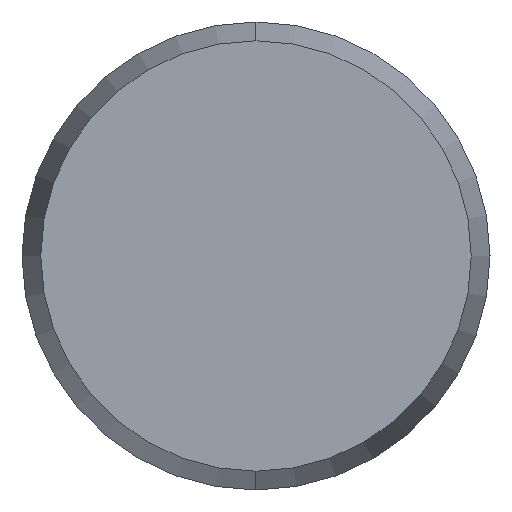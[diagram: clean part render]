
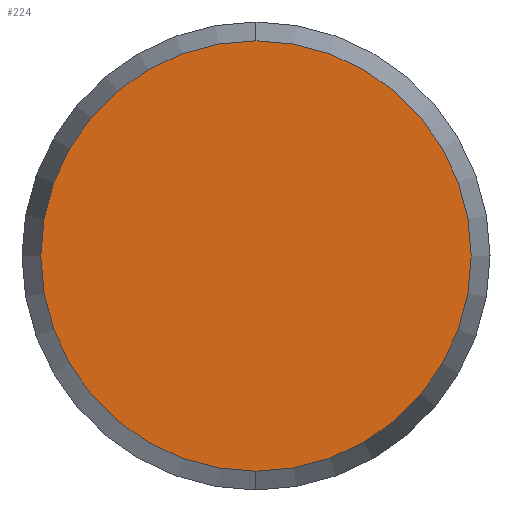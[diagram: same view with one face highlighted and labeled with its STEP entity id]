
A CAD part, left-side view. The second image highlights one B-rep face of the part: STEP entity #224.
In plain terms, the highlighted planar face has unit normal (-1, 0, 0).
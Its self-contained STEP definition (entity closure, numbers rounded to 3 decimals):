
#1 = CARTESIAN_POINT ( 'NONE',  ( -12., 0., 0. ) ) ;
#2 = DIRECTION ( 'NONE',  ( 1., 0., 0. ) ) ;
#3 = AXIS2_PLACEMENT_3D ( 'NONE', #1, #2, #4 ) ;
#4 = DIRECTION ( 'NONE',  ( 0., 0., -1. ) ) ;
#22 = AXIS2_PLACEMENT_3D ( 'NONE', #28, #27, #36 ) ;
#23 = CIRCLE ( 'NONE', #3, 3.678 ) ;
#27 = DIRECTION ( 'NONE',  ( 1., 0., 0. ) ) ;
#28 = CARTESIAN_POINT ( 'NONE',  ( -12., 0., 0. ) ) ;
#33 = PLANE ( 'NONE',  #22 ) ;
#34 = FACE_OUTER_BOUND ( 'NONE', #243, .T. ) ;
#36 = DIRECTION ( 'NONE',  ( 0., 0., -1. ) ) ;
#188 = VERTEX_POINT ( 'NONE', #273 ) ;
#190 = EDGE_CURVE ( 'NONE', #191, #188, #259, .T. ) ;
#191 = VERTEX_POINT ( 'NONE', #275 ) ;
#224 = ADVANCED_FACE ( 'NONE', ( #34 ), #33, .F. ) ;
#229 = ORIENTED_EDGE ( 'NONE', *, *, #246, .F. ) ;
#230 = ORIENTED_EDGE ( 'NONE', *, *, #190, .F. ) ;
#243 = EDGE_LOOP ( 'NONE', ( #230, #229 ) ) ;
#246 = EDGE_CURVE ( 'NONE', #188, #191, #23, .T. ) ;
#251 = AXIS2_PLACEMENT_3D ( 'NONE', #254, #253, #252 ) ;
#252 = DIRECTION ( 'NONE',  ( 0., 0., -1. ) ) ;
#253 = DIRECTION ( 'NONE',  ( 1., 0., 0. ) ) ;
#254 = CARTESIAN_POINT ( 'NONE',  ( -12., 0., 0. ) ) ;
#259 = CIRCLE ( 'NONE', #251, 3.678 ) ;
#273 = CARTESIAN_POINT ( 'NONE',  ( -12., 0., -3.678 ) ) ;
#275 = CARTESIAN_POINT ( 'NONE',  ( -12., 0., 3.678 ) ) ;
